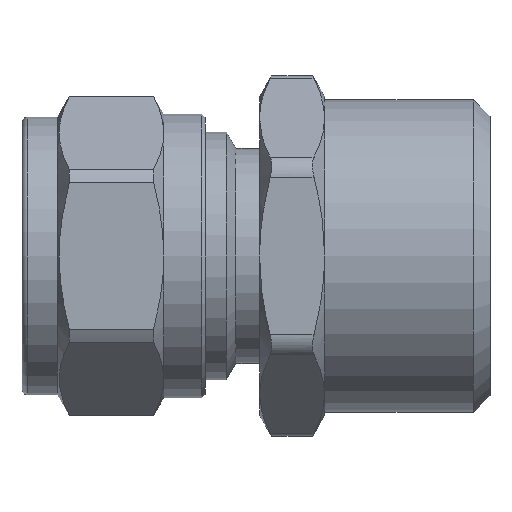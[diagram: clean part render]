
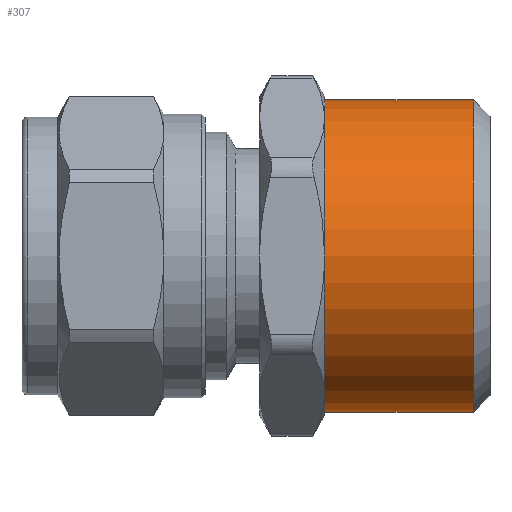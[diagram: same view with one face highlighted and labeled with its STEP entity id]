
A CAD part, left-side view. The second image highlights one B-rep face of the part: STEP entity #307.
In plain terms, the highlighted cylindrical face has radius 13.22 mm (diameter 26.441 mm), a full revolution.
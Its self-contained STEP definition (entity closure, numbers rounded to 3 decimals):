
#307=ADVANCED_FACE('',(#2043,#2045),#2047,.T.);
#2043=FACE_OUTER_BOUND('',#2044,.T.);
#2044=EDGE_LOOP('',(#4076));
#2045=FACE_OUTER_BOUND('',#2046,.T.);
#2046=EDGE_LOOP('',(#4077));
#2047=CYLINDRICAL_SURFACE('',#2048,13.221);
#2048=AXIS2_PLACEMENT_3D('',#2049,#2050,#2051);
#2049=CARTESIAN_POINT('',(0.,-15.,0.));
#2050=DIRECTION('',(0.,-1.,0.));
#2051=DIRECTION('',(0.,0.,1.));
#4076=ORIENTED_EDGE('',*,*,#4922,.F.);
#4077=ORIENTED_EDGE('',*,*,#4961,.F.);
#4922=EDGE_CURVE('',#6085,#6085,#6086,.F.);
#4961=EDGE_CURVE('',#6145,#6145,#6146,.T.);
#6085=VERTEX_POINT('',#10123);
#6086=CIRCLE('',#10124,13.221);
#6145=VERTEX_POINT('',#10264);
#6146=CIRCLE('',#10265,13.221);
#10123=CARTESIAN_POINT('',(0.,-15.,13.221));
#10124=AXIS2_PLACEMENT_3D('',#10125,#10126,#10127);
#10125=CARTESIAN_POINT('',(0.,-15.,0.));
#10126=DIRECTION('',(0.,-1.,0.));
#10127=DIRECTION('',(0.,0.,1.));
#10264=CARTESIAN_POINT('',(0.,-27.6,13.221));
#10265=AXIS2_PLACEMENT_3D('',#10266,#10267,#10268);
#10266=CARTESIAN_POINT('',(0.,-27.6,0.));
#10267=DIRECTION('',(0.,-1.,0.));
#10268=DIRECTION('',(0.,0.,1.));
